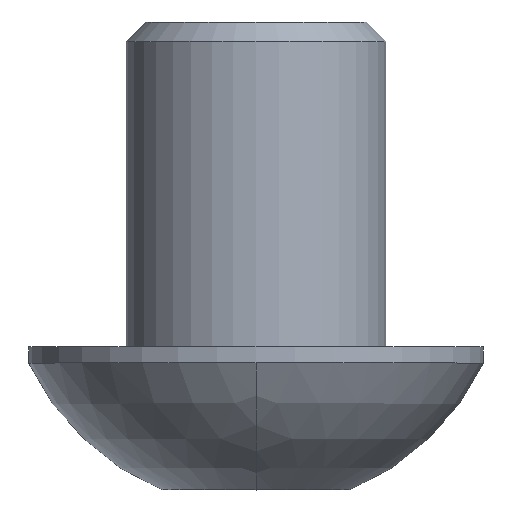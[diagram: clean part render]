
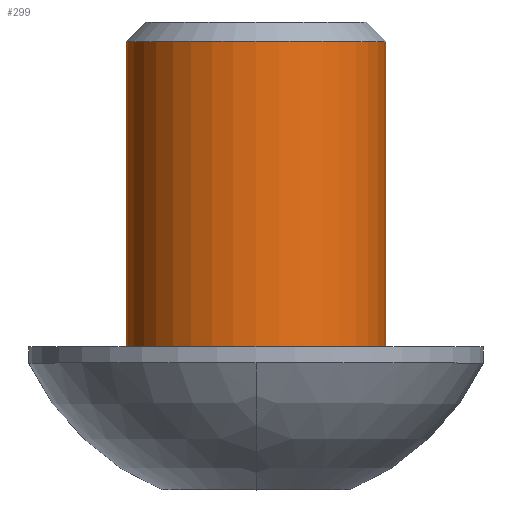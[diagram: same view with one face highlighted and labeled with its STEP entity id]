
A CAD part, top view. The second image highlights one B-rep face of the part: STEP entity #299.
In plain terms, the highlighted cylindrical face has radius 4 mm (diameter 8 mm), a partial arc.
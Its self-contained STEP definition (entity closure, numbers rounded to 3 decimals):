
#24=CARTESIAN_POINT('',(0.,9.4,0.));
#25=DIRECTION('',(0.,1.,0.));
#26=DIRECTION('',(-1.,0.,0.));
#27=AXIS2_PLACEMENT_3D('',#24,#25,#26);
#29=DIRECTION('',(0.,1.,0.));
#30=VECTOR('',#29,9.4);
#31=CARTESIAN_POINT('',(-4.,0.,0.));
#32=LINE('',#31,#30);
#48=CARTESIAN_POINT('',(0.,0.,0.));
#49=DIRECTION('',(0.,1.,0.));
#50=DIRECTION('',(-1.,0.,0.));
#51=AXIS2_PLACEMENT_3D('',#48,#49,#50);
#193=DIRECTION('',(0.,1.,0.));
#194=VECTOR('',#193,9.4);
#195=CARTESIAN_POINT('',(4.,0.,0.));
#196=LINE('',#195,#194);
#201=CARTESIAN_POINT('',(4.,0.,0.));
#202=CARTESIAN_POINT('',(-4.,0.,0.));
#203=VERTEX_POINT('',#201);
#204=VERTEX_POINT('',#202);
#233=CARTESIAN_POINT('',(-4.,9.4,0.));
#234=CARTESIAN_POINT('',(4.,9.4,0.));
#235=VERTEX_POINT('',#233);
#236=VERTEX_POINT('',#234);
#285=CARTESIAN_POINT('',(0.,0.,0.));
#286=DIRECTION('',(0.,1.,0.));
#287=DIRECTION('',(1.,0.,0.));
#288=AXIS2_PLACEMENT_3D('',#285,#286,#287);
#289=CYLINDRICAL_SURFACE('',#288,4.);
#291=ORIENTED_EDGE('',*,*,#290,.F.);
#293=ORIENTED_EDGE('',*,*,#292,.T.);
#294=ORIENTED_EDGE('',*,*,#279,.T.);
#296=ORIENTED_EDGE('',*,*,#295,.F.);
#297=EDGE_LOOP('',(#291,#293,#294,#296));
#298=FACE_OUTER_BOUND('',#297,.F.);
#299=ADVANCED_FACE('',(#298),#289,.T.);
#28=CIRCLE('',#27,4.);
#52=CIRCLE('',#51,4.);
#279=EDGE_CURVE('',#235,#236,#28,.T.);
#290=EDGE_CURVE('',#204,#203,#52,.T.);
#292=EDGE_CURVE('',#204,#235,#32,.T.);
#295=EDGE_CURVE('',#203,#236,#196,.T.);
